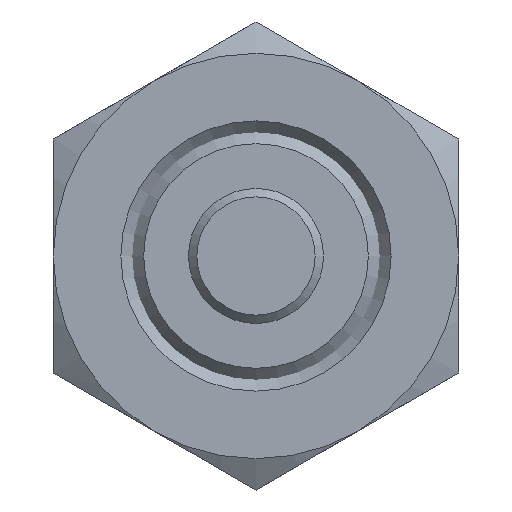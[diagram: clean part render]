
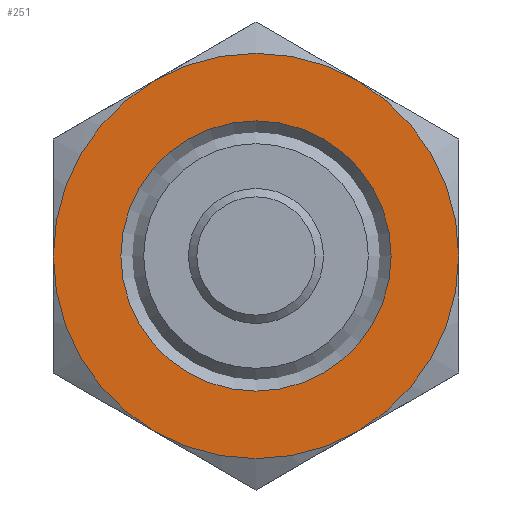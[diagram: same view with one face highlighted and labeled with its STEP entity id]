
A CAD part, front view. The second image highlights one B-rep face of the part: STEP entity #251.
In plain terms, the highlighted planar face has unit normal (0, -1, 0) as drawn and (1, 0, 0) by its records, which use the part's own axes.
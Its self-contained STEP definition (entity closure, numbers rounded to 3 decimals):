
#251 = ADVANCED_FACE( '', ( #393, #394 ), #395, .F. );
#393 = FACE_BOUND( '', #559, .T. );
#394 = FACE_OUTER_BOUND( '', #560, .T. );
#395 = PLANE( '', #561 );
#559 = EDGE_LOOP( '', ( #887 ) );
#560 = EDGE_LOOP( '', ( #888, #889, #890, #891, #892, #893 ) );
#561 = AXIS2_PLACEMENT_3D( '', #894, #895, #896 );
#887 = ORIENTED_EDGE( '', *, *, #1102, .F. );
#888 = ORIENTED_EDGE( '', *, *, #1103, .T. );
#889 = ORIENTED_EDGE( '', *, *, #1104, .T. );
#890 = ORIENTED_EDGE( '', *, *, #1105, .T. );
#891 = ORIENTED_EDGE( '', *, *, #1106, .T. );
#892 = ORIENTED_EDGE( '', *, *, #1107, .T. );
#893 = ORIENTED_EDGE( '', *, *, #1108, .T. );
#894 = CARTESIAN_POINT( '', ( 8., 12., 0. ) );
#895 = DIRECTION( '', ( -1., 0., 0. ) );
#896 = DIRECTION( '', ( 0., 0., 1. ) );
#1102 = EDGE_CURVE( '', #1280, #1280, #1281, .T. );
#1103 = EDGE_CURVE( '', #1282, #1283, #1284, .T. );
#1104 = EDGE_CURVE( '', #1283, #1262, #1285, .T. );
#1105 = EDGE_CURVE( '', #1262, #1253, #1286, .T. );
#1106 = EDGE_CURVE( '', #1253, #1274, #1287, .T. );
#1107 = EDGE_CURVE( '', #1274, #1288, #1289, .T. );
#1108 = EDGE_CURVE( '', #1288, #1282, #1290, .T. );
#1253 = VERTEX_POINT( '', #1604 );
#1262 = VERTEX_POINT( '', #1638 );
#1274 = VERTEX_POINT( '', #1676 );
#1280 = VERTEX_POINT( '', #1706 );
#1281 = CIRCLE( '', #1707, 8. );
#1282 = VERTEX_POINT( '', #1708 );
#1283 = VERTEX_POINT( '', #1709 );
#1284 = CIRCLE( '', #1710, 12. );
#1285 = CIRCLE( '', #1711, 12. );
#1286 = CIRCLE( '', #1712, 12. );
#1287 = CIRCLE( '', #1713, 12. );
#1288 = VERTEX_POINT( '', #1714 );
#1289 = CIRCLE( '', #1715, 12. );
#1290 = CIRCLE( '', #1716, 12. );
#1604 = CARTESIAN_POINT( '', ( 8., 0., 12. ) );
#1638 = CARTESIAN_POINT( '', ( 8., 10.392, 6. ) );
#1676 = CARTESIAN_POINT( '', ( 8., -10.392, 6. ) );
#1706 = CARTESIAN_POINT( '', ( 8., 0., -8. ) );
#1707 = AXIS2_PLACEMENT_3D( '', #1965, #1966, #1967 );
#1708 = CARTESIAN_POINT( '', ( 8., 0., -12. ) );
#1709 = CARTESIAN_POINT( '', ( 8., 10.392, -6. ) );
#1710 = AXIS2_PLACEMENT_3D( '', #1968, #1969, #1970 );
#1711 = AXIS2_PLACEMENT_3D( '', #1971, #1972, #1973 );
#1712 = AXIS2_PLACEMENT_3D( '', #1974, #1975, #1976 );
#1713 = AXIS2_PLACEMENT_3D( '', #1977, #1978, #1979 );
#1714 = CARTESIAN_POINT( '', ( 8., -10.392, -6. ) );
#1715 = AXIS2_PLACEMENT_3D( '', #1980, #1981, #1982 );
#1716 = AXIS2_PLACEMENT_3D( '', #1983, #1984, #1985 );
#1965 = CARTESIAN_POINT( '', ( 8., 0., 0. ) );
#1966 = DIRECTION( '', ( 1., 0., 0. ) );
#1967 = DIRECTION( '', ( 0., 0., -1. ) );
#1968 = CARTESIAN_POINT( '', ( 8., 0., 0. ) );
#1969 = DIRECTION( '', ( 1., 0., 0. ) );
#1970 = DIRECTION( '', ( 0., 0., -1. ) );
#1971 = CARTESIAN_POINT( '', ( 8., 0., 0. ) );
#1972 = DIRECTION( '', ( 1., 0., 0. ) );
#1973 = DIRECTION( '', ( 0., 0., -1. ) );
#1974 = CARTESIAN_POINT( '', ( 8., 0., 0. ) );
#1975 = DIRECTION( '', ( 1., 0., 0. ) );
#1976 = DIRECTION( '', ( 0., 0., -1. ) );
#1977 = CARTESIAN_POINT( '', ( 8., 0., 0. ) );
#1978 = DIRECTION( '', ( 1., 0., 0. ) );
#1979 = DIRECTION( '', ( 0., 0., -1. ) );
#1980 = CARTESIAN_POINT( '', ( 8., 0., 0. ) );
#1981 = DIRECTION( '', ( 1., 0., 0. ) );
#1982 = DIRECTION( '', ( 0., 0., -1. ) );
#1983 = CARTESIAN_POINT( '', ( 8., 0., 0. ) );
#1984 = DIRECTION( '', ( 1., 0., 0. ) );
#1985 = DIRECTION( '', ( 0., 0., -1. ) );
